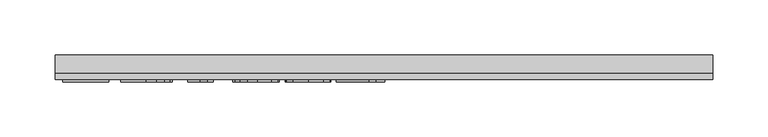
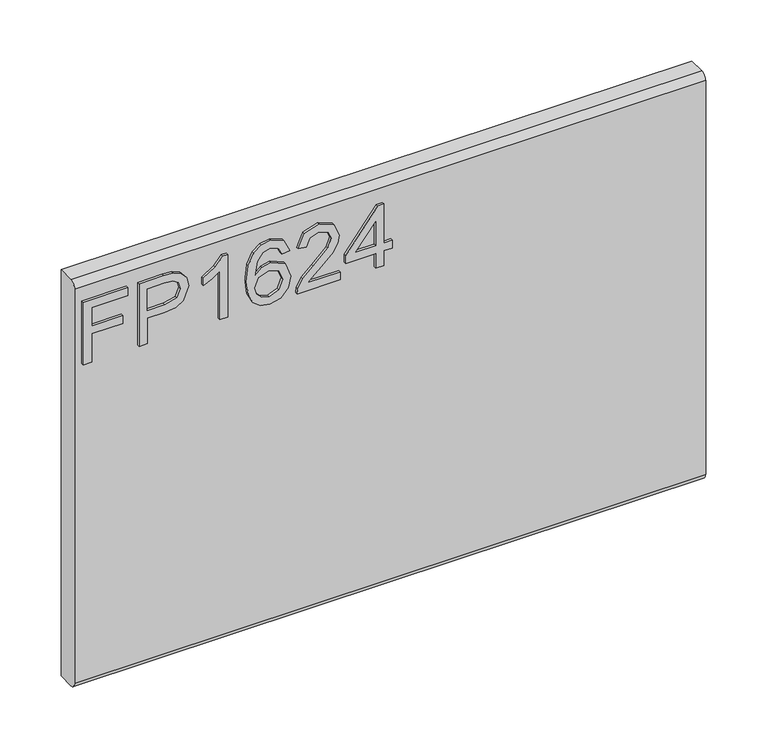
"""IFC4 building model written with IfcOpenShell, lengths in millimetres: furniture geometry."""

from ifc_helpers import new_model, si_unit, frame, origin, place, context, project, spatial, polyline, circle_curve, outline, extrude, source, transform, mapped, element, save
from ifc_brep_helpers import plane_surface, cylinder_surface, advanced_brep


def furniture_9dcc6860(model_context):
    return source(origin(), model_context, "Body", "SolidModel", [
        extrude(outline(polyline([(882.65, -291.6115385), (882.65, -283.7961538), (910.9807692, -283.7961538), (910.9807692, -254.4884615), (918.7961538, -254.4884615), (918.7961538, -283.7961538), (937.3576923, -283.7961538), (937.3576923, -249.6038462), (945.1730769, -249.6038462), (945.1730769, -291.6115385), (882.65, -291.6115385)])), frame((0.0, -15.0812439, 0.0), z_axis=(0.0, 1.0, 0.0), x_axis=(0.0, 0.0, 1.0)), (0.0, 0.0, 1.0), 2.38125),
        extrude(outline(polyline([(882.65, -238.8576923), (882.65, -231.0423077), (908.05, -231.0423077), (908.05, -215.1520433), (909.4314303, -204.0490835), (913.5757212, -196.995012), (927.0847356, -191.9653846), (935.6099159, -193.8276442), (941.6546274, -198.7504207), (944.5777644, -206.3444712), (945.1730769, -215.6862981), (945.1730769, -238.8576923), (882.65, -238.8576923)]), holes=[polyline([(915.8653846, -231.0423077), (937.3576923, -231.0423077), (937.3576923, -214.8772837), (936.8234375, -207.061899), (933.2820913, -201.7880409), (926.809976, -199.7807692), (918.7350962, -203.1847356), (915.8653846, -214.6941106), (915.8653846, -231.0423077)])]), frame((0.0, -15.0812439, 0.0), z_axis=(0.0, 1.0, 0.0), x_axis=(0.0, 0.0, 1.0)), (0.0, 0.0, 1.0), 2.38125),
        extrude(outline(polyline([(882.65, -154.8423077), (945.1730769, -154.8423077), (945.1730769, -159.8795673), (936.8539663, -166.832512), (929.5423077, -178.2884615), (922.1543269, -178.2884615), (926.1001803, -170.0609375), (931.3740385, -162.6576923), (882.65, -162.6576923), (882.65, -154.8423077)])), frame((0.0, -15.0812439, 0.0), z_axis=(0.0, 1.0, 0.0), x_axis=(0.0, 0.0, 1.0)), (0.0, 0.0, 1.0), 2.38125),
        extrude(outline(polyline([(928.5653846, -96.2269231), (940.7616587, -101.996875), (945.1730769, -114.3457933), (943.3909555, -123.4166767), (938.0445913, -130.4192308), (927.4014724, -135.5480769), (911.8355769, -137.2576923), (897.9907452, -135.7178936), (888.6947115, -131.0984976), (883.4284856, -124.0367939), (881.6730769, -115.1700721), (884.3214543, -104.9276442), (891.9536659, -97.8296875), (902.7379808, -95.25), (917.1323317, -100.7299279), (922.7038462, -114.009976), (920.6660457, -122.5504207), (914.4305288, -129.4423077), (928.3593149, -127.2213341), (935.4649038, -121.8864183), (937.3576923, -114.8342548), (934.1063702, -107.0036058), (927.5884615, -104.0423077), (928.5653846, -96.2269231)]), holes=[polyline([(902.8600962, -129.4423077), (911.5684495, -125.557512), (914.8884615, -116.1012019), (911.5684495, -106.5227764), (902.4784856, -103.0653846), (892.9840144, -106.5685697), (889.4884615, -115.780649), (891.1751803, -122.8251803), (896.0903245, -127.6334736), (902.8600962, -129.4423077)])]), frame((0.0, -15.0812439, 0.0), z_axis=(0.0, 1.0, 0.0), x_axis=(0.0, 0.0, 1.0)), (0.0, 0.0, 1.0), 2.38125),
        extrude(outline(polyline([(890.4653846, -48.3576923), (890.4653846, -79.0544471), (894.4417668, -75.5283654), (901.9594952, -66.5376202), (912.667488, -55.3411659), (920.3302284, -50.7236779), (927.7411058, -49.3346154), (940.1663462, -54.4863582), (945.1730769, -68.4762019), (940.6700721, -82.4202524), (927.5884615, -88.4115385), (926.6115385, -80.5961538), (934.5032452, -77.3066707), (937.3576923, -68.6441106), (934.4345553, -60.3326322), (927.2679087, -57.15), (918.4145433, -60.5234375), (905.3939904, -74.0171875), (896.3345553, -83.8016827), (888.0383413, -88.5489183), (882.65, -89.3884615), (882.65, -48.3576923), (890.4653846, -48.3576923)])), frame((0.0, -15.0812439, 0.0), z_axis=(0.0, 1.0, 0.0), x_axis=(0.0, 0.0, 1.0)), (0.0, 0.0, 1.0), 2.38125),
        extrude(outline(polyline([(882.65, -15.1423077), (882.65, -7.3269231), (897.3038462, -7.3269231), (897.3038462, 0.4884615), (905.1192308, 0.4884615), (905.1192308, -7.3269231), (944.1961538, -7.3269231), (944.1961538, -13.1884615), (905.1192308, -43.4730769), (897.3038462, -43.4730769), (897.3038462, -15.1423077), (882.65, -15.1423077)]), holes=[polyline([(905.1192308, -15.1423077), (905.1192308, -33.8564904), (929.2675481, -15.1423077), (905.1192308, -15.1423077)])]), frame((0.0, -15.0812439, 0.0), z_axis=(0.0, 1.0, 0.0), x_axis=(0.0, 0.0, 1.0)), (0.0, 0.0, 1.0), 2.38125),
        advanced_brep(
        [(298.45, 9.5250061, 965.2), (298.45, -6.7309939, 965.2), (298.45, -12.6999939, 959.231), (298.45, -12.6999939, 564.769), (298.45, -6.7309939, 558.8), (298.45, 9.5250061, 558.8), (-298.45, 9.5250061, 965.2), (-298.45, 9.5250061, 558.8), (-298.45, -6.7309939, 558.8), (-298.45, -12.6999939, 564.769), (-298.45, -12.6999939, 959.2310121), (-298.45, -6.7309939, 965.2)],
        [
            (0, 1),
            (1, 2, circle_curve(frame((298.45, -6.7309939, 959.231), z_axis=(1.0, 0.0, 0.0), x_axis=(0.0, 1.0, 0.0)), 5.969)),
            (2, 3),
            (3, 4, circle_curve(frame((298.45, -6.7309939, 564.769), z_axis=(1.0, 0.0, 0.0), x_axis=(0.0, 1.0, 0.0)), 5.969)),
            (4, 5),
            (5, 0),
            (6, 7),
            (7, 8),
            (8, 9, circle_curve(frame((-298.45, -6.7309939, 564.769), z_axis=(-1.0, 0.0, 0.0), x_axis=(0.0, 1.0, 0.0)), 5.969)),
            (9, 10),
            (10, 11, circle_curve(frame((-298.45, -6.7309939, 959.231), z_axis=(-1.0, 0.0, 0.0), x_axis=(0.0, 1.0, 0.0)), 5.969)),
            (11, 6),
            (0, 6),
            (11, 1),
            (10, 2),
            (9, 3),
            (8, 4),
            (7, 5),
        ],
        [
            plane_surface(frame((298.45, -6.7309939, 965.2), z_axis=(1.0, 0.0, 0.0), x_axis=(0.0, -1.0, 0.0))),
            plane_surface(frame((-298.45, -6.7309939, 965.2), z_axis=(-1.0, 0.0, 0.0), x_axis=(0.0, 1.0, 0.0))),
            plane_surface(frame((298.45, 9.5250061, 965.2), z_axis=(0.0, 0.0, 1.0), x_axis=(-1.0, 0.0, 0.0))),
            cylinder_surface(frame((-298.45, -6.7309939, 959.231), z_axis=(1.0, 0.0, 0.0), x_axis=(0.0, 1.0, 0.0)), 5.969),
            plane_surface(frame((298.45, -12.6999939, 959.2310121), z_axis=(0.0, -1.0, 0.0), x_axis=(-1.0, 0.0, 0.0))),
            cylinder_surface(frame((-298.45, -6.7309939, 564.769), z_axis=(1.0, 0.0, 0.0), x_axis=(0.0, 1.0, 0.0)), 5.969),
            plane_surface(frame((298.45, -6.7309939, 558.8), z_axis=(0.0, 0.0, -1.0), x_axis=(-1.0, 0.0, 0.0))),
            plane_surface(frame((298.45, 9.5250061, 558.8), z_axis=(0.0, 1.0, 0.0), x_axis=(-1.0, 0.0, 0.0))),
        ],
        [
            (0, [[1, 2, 3, 4, 5, 6]]),
            (1, [[7, 8, 9, 10, 11, 12]]),
            (2, [[-1, 13, -12, 14]]),
            (3, [[-2, -14, -11, 15]]),
            (4, [[-3, -15, -10, 16]]),
            (5, [[-4, -16, -9, 17]]),
            (6, [[-5, -17, -8, 18]]),
            (7, [[-6, -18, -7, -13]]),
        ],
    ),
    ])


if __name__ == "__main__":
    model = new_model("IFC4")
    model_context = context("Model", 3, world=origin())
    ifc_project = project(units=[si_unit("LENGTHUNIT", "METRE", prefix="MILLI")], contexts=[model_context])
    site = spatial("IfcSite", under=ifc_project)
    building = spatial("IfcBuilding", under=site)
    placement = place(None, origin())
    furniture_shape = furniture_9dcc6860(model_context)
    element("IfcFurniture", 1, ObjectType="HermanMiller_Ethospace_E1420_FaceTile : Ptd 16\"H x 24\"W", at=placement, inside=building, context=model_context, shape_type="MappedRepresentation", body=[
        mapped(furniture_shape, transform((0.0, 0.0, 0.0), x_axis=(1.0, 0.0, 0.0), y_axis=(0.0, 1.0, 0.0), z_axis=(0.0, 0.0, 1.0))),
    ])
    save(model, "model.ifc")
